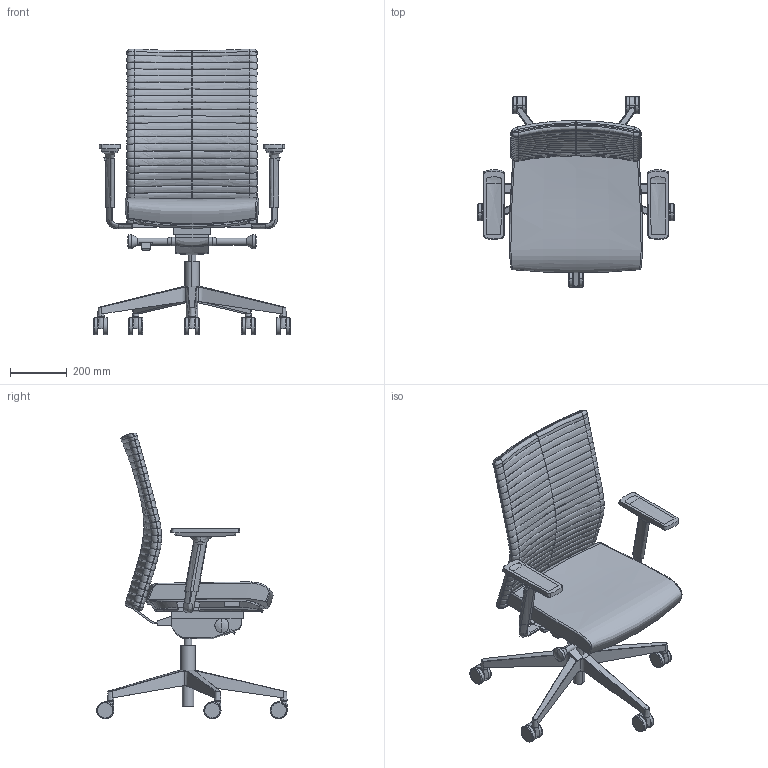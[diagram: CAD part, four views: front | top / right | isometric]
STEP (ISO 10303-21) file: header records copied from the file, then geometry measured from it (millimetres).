
FILE_DESCRIPTION(/* description */ (''),/* implementation_level */ '2;1');
FILE_NAME(/* name */ 'ELEMEN~4',/* time_stamp */ '2017-07-18T23:14:49+02:00',/* author */ (''),/* organization */ (''),/* preprocessor_version */ 'ST-DEVELOPER v15',/* originating_system */ '',/* authorisation */ '');
FILE_SCHEMA (('CONFIG_CONTROL_DESIGN'));
Length unit declared in the file: millimetre
Products named in the file (1): Document
Bounding box: 694.82 x 673.73 x 1010.79 mm (x, y, z)
Volume: 4401351.2 mm3; surface area: 2221423.3 mm2
Topology: 16 solids, 44 shells, 728 faces, 1698 edges, 998 vertices
Faces by surface type: bspline 591, plane 137
Entity records: 56212 total; most frequent: CARTESIAN_POINT 46054, ORIENTED_EDGE 3091, EDGE_CURVE 1674, B_SPLINE_CURVE_WITH_KNOTS 1211, VERTEX_POINT 992, EDGE_LOOP 732, ADVANCED_FACE 728, FACE_OUTER_BOUND 728
